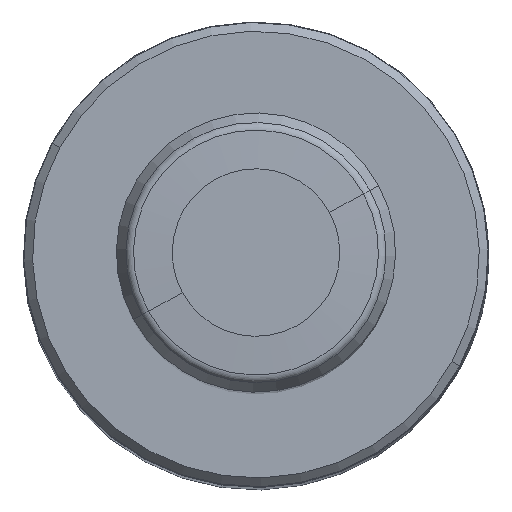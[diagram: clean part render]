
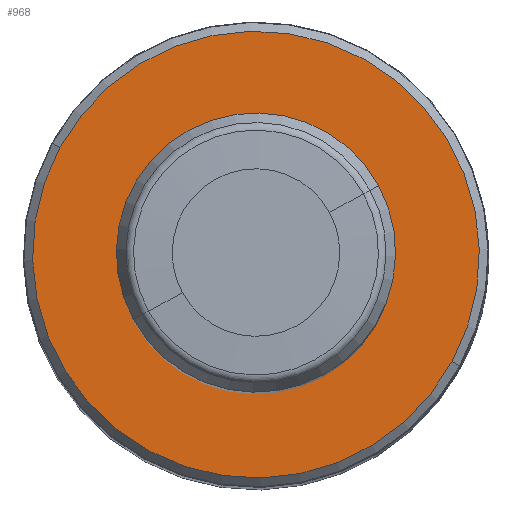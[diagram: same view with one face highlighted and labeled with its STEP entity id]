
A CAD part, top view. The second image highlights one B-rep face of the part: STEP entity #968.
In plain terms, the highlighted planar face has unit normal (0, 0, 1).
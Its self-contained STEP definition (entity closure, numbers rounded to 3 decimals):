
#925=CARTESIAN_POINT('Vertex',(-21.062,11.506,72.)) ;
#928=CARTESIAN_POINT('Axis2P3D Location',(0.,0.,72.)) ;
#932=CARTESIAN_POINT('Vertex',(21.062,-11.506,72.)) ;
#947=CARTESIAN_POINT('Axis2P3D Location',(0.,0.,72.)) ;
#959=CARTESIAN_POINT('Axis2P3D Location',(24.,0.,72.)) ;
#929=DIRECTION('Axis2P3D Direction',(0.,0.,-1.)) ;
#948=DIRECTION('Axis2P3D Direction',(0.,0.,-1.)) ;
#960=DIRECTION('Axis2P3D Direction',(0.,0.,-1.)) ;
#961=DIRECTION('Axis2P3D XDirection',(1.,0.,0.)) ;
#930=AXIS2_PLACEMENT_3D('Circle Axis2P3D',#928,#929,$) ;
#949=AXIS2_PLACEMENT_3D('Circle Axis2P3D',#947,#948,$) ;
#962=AXIS2_PLACEMENT_3D('Plane Axis2P3D',#959,#960,#961) ;
#965=ORIENTED_EDGE('',*,*,#934,.F.) ;
#966=ORIENTED_EDGE('',*,*,#951,.F.) ;
#968=ADVANCED_FACE('',(#967),#963,.F.) ;
#931=CIRCLE('generated circle',#930,24.) ;
#950=CIRCLE('generated circle',#949,24.) ;
#934=EDGE_CURVE('',#926,#933,#931,.T.) ;
#951=EDGE_CURVE('',#933,#926,#950,.T.) ;
#964=EDGE_LOOP('',(#965,#966)) ;
#967=FACE_OUTER_BOUND('',#964,.T.) ;
#963=PLANE('Plane',#962) ;
#926=VERTEX_POINT('',#925) ;
#933=VERTEX_POINT('',#932) ;
